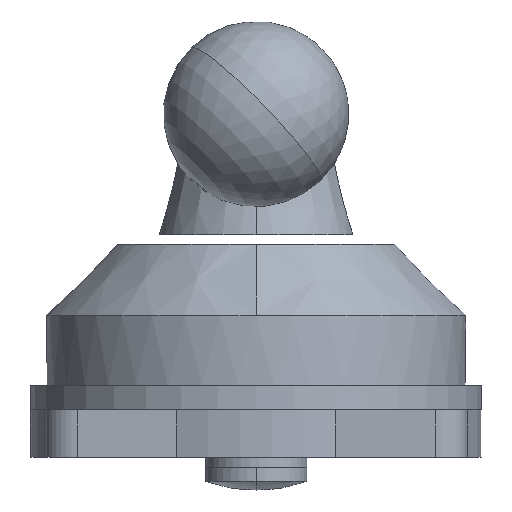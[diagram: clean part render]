
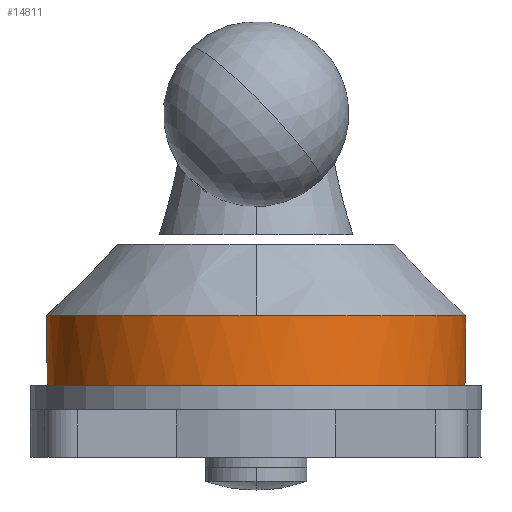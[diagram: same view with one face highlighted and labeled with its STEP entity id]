
A CAD part, front view. The second image highlights one B-rep face of the part: STEP entity #14811.
In plain terms, the highlighted cylindrical face has radius 41.25 mm (diameter 82.499 mm), a partial arc.
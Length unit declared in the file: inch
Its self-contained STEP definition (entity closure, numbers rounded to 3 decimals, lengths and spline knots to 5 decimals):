
#281 = CARTESIAN_POINT ( 'NONE',  ( 0.34484, 1.587, 0.70714 ) ) ;
#324 = ORIENTED_EDGE ( 'NONE', *, *, #4533, .T. ) ;
#381 = CARTESIAN_POINT ( 'NONE',  ( 0., -1.624, 0.75 ) ) ;
#505 = VERTEX_POINT ( 'NONE', #11172 ) ;
#512 = EDGE_CURVE ( 'NONE', #15346, #14352, #13918, .T. ) ;
#668 = ORIENTED_EDGE ( 'NONE', *, *, #15362, .T. ) ;
#938 = AXIS2_PLACEMENT_3D ( 'NONE', #8455, #8438, #8393 ) ;
#962 = CARTESIAN_POINT ( 'NONE',  ( -0.43676, 1.56417, 0.46685 ) ) ;
#1140 = DIRECTION ( 'NONE',  ( 0., 0., 1. ) ) ;
#1306 = CIRCLE ( 'NONE', #938, 1.624 ) ;
#1531 = CARTESIAN_POINT ( 'NONE',  ( 0.4375, 1.56396, 0.4375 ) ) ;
#1590 = CARTESIAN_POINT ( 'NONE',  ( 0.31645, 1.5929, 0.73994 ) ) ;
#1982 = CARTESIAN_POINT ( 'NONE',  ( 0., 0., 0.75 ) ) ;
#2180 = CARTESIAN_POINT ( 'NONE',  ( -0.30619, 1.59487, 0.75 ) ) ;
#2234 = CARTESIAN_POINT ( 'NONE',  ( -0.4375, 1.56396, 0.4375 ) ) ;
#2573 = CARTESIAN_POINT ( 'NONE',  ( -0.4375, 1.56396, 0.4375 ) ) ;
#2588 = VERTEX_POINT ( 'NONE', #5667 ) ;
#2917 = CIRCLE ( 'NONE', #9747, 1.624 ) ;
#3163 = B_SPLINE_CURVE_WITH_KNOTS ( 'NONE', 3,
 ( #1531, #8896, #11345, #4044, #12513, #5274, #13710, #6472, #14874, #7698, #281, #8944, #1590, #10167 ),
 .UNSPECIFIED., .F., .F.,
 ( 4, 2, 2, 2, 2, 2, 4 ),
 ( 0., 0.00221, 0.00331, 0.00442, 0.00663, 0.00773, 0.00884 ),
 .UNSPECIFIED. ) ;
#3214 = DIRECTION ( 'NONE',  ( 0., 1., 0. ) ) ;
#3416 = CARTESIAN_POINT ( 'NONE',  ( -0.34534, 1.58694, 0.70764 ) ) ;
#3653 = ORIENTED_EDGE ( 'NONE', *, *, #13631, .T. ) ;
#4044 = CARTESIAN_POINT ( 'NONE',  ( 0.42595, 1.56715, 0.53842 ) ) ;
#4284 = CARTESIAN_POINT ( 'NONE',  ( -0.4375, 1.56396, 0. ) ) ;
#4393 = ORIENTED_EDGE ( 'NONE', *, *, #9732, .T. ) ;
#4407 = VERTEX_POINT ( 'NONE', #381 ) ;
#4533 = EDGE_CURVE ( 'NONE', #505, #4407, #1306, .T. ) ;
#4561 = CARTESIAN_POINT ( 'NONE',  ( -0.4375, 1.56396, 0.203 ) ) ;
#4685 = CARTESIAN_POINT ( 'NONE',  ( -0.37719, 1.57961, 0.65963 ) ) ;
#4798 = CARTESIAN_POINT ( 'NONE',  ( 0.4375, 1.56396, 0.203 ) ) ;
#5274 = CARTESIAN_POINT ( 'NONE',  ( 0.41377, 1.57041, 0.58038 ) ) ;
#5337 = ORIENTED_EDGE ( 'NONE', *, *, #512, .F. ) ;
#5667 = CARTESIAN_POINT ( 'NONE',  ( -0.30619, 1.59487, 0.75 ) ) ;
#5730 = CYLINDRICAL_SURFACE ( 'NONE', #15549, 1.624 ) ;
#5811 = B_SPLINE_CURVE_WITH_KNOTS ( 'NONE', 3,
 ( #2180, #5829, #3416, #11950, #4685, #13118, #5889, #14307, #7092, #15469, #8338, #962, #9568, #2234 ),
 .UNSPECIFIED., .F., .F.,
 ( 4, 2, 2, 2, 2, 2, 4 ),
 ( 0.02606, 0.02827, 0.02937, 0.03048, 0.03268, 0.03379, 0.03489 ),
 .UNSPECIFIED. ) ;
#5829 = CARTESIAN_POINT ( 'NONE',  ( -0.32691, 1.5909, 0.72969 ) ) ;
#5889 = CARTESIAN_POINT ( 'NONE',  ( -0.39746, 1.57462, 0.62091 ) ) ;
#6142 = EDGE_CURVE ( 'NONE', #15542, #14352, #12050, .T. ) ;
#6183 = AXIS2_PLACEMENT_3D ( 'NONE', #11732, #11757, #11777 ) ;
#6472 = CARTESIAN_POINT ( 'NONE',  ( 0.39183, 1.57606, 0.63427 ) ) ;
#6560 = ORIENTED_EDGE ( 'NONE', *, *, #9411, .T. ) ;
#6938 = DIRECTION ( 'NONE',  ( 0., 1., 0. ) ) ;
#7092 = CARTESIAN_POINT ( 'NONE',  ( -0.42288, 1.56799, 0.55336 ) ) ;
#7509 = LINE ( 'NONE', #8504, #15001 ) ;
#7698 = CARTESIAN_POINT ( 'NONE',  ( 0.35365, 1.58505, 0.69546 ) ) ;
#7869 = VERTEX_POINT ( 'NONE', #14315 ) ;
#8338 = CARTESIAN_POINT ( 'NONE',  ( -0.43381, 1.56499, 0.49604 ) ) ;
#8393 = DIRECTION ( 'NONE',  ( 0., 1., 0. ) ) ;
#8438 = DIRECTION ( 'NONE',  ( 0., 0., -1. ) ) ;
#8455 = CARTESIAN_POINT ( 'NONE',  ( 0., 0., 0.75 ) ) ;
#8504 = CARTESIAN_POINT ( 'NONE',  ( 0.4375, 1.56396, 0. ) ) ;
#8656 = EDGE_LOOP ( 'NONE', ( #14936, #5337, #668, #3653, #324, #4393, #6560 ) ) ;
#8896 = CARTESIAN_POINT ( 'NONE',  ( 0.4375, 1.56396, 0.46692 ) ) ;
#8944 = CARTESIAN_POINT ( 'NONE',  ( 0.32624, 1.59092, 0.72936 ) ) ;
#9411 = EDGE_CURVE ( 'NONE', #2588, #15542, #5811, .T. ) ;
#9568 = CARTESIAN_POINT ( 'NONE',  ( -0.4375, 1.56396, 0.4522 ) ) ;
#9732 = EDGE_CURVE ( 'NONE', #4407, #2588, #2917, .T. ) ;
#9747 = AXIS2_PLACEMENT_3D ( 'NONE', #1982, #10544, #3214 ) ;
#10167 = CARTESIAN_POINT ( 'NONE',  ( 0.30619, 1.59487, 0.75 ) ) ;
#10296 = DIRECTION ( 'NONE',  ( 0., 0., -1. ) ) ;
#10503 = FACE_OUTER_BOUND ( 'NONE', #8656, .T. ) ;
#10544 = DIRECTION ( 'NONE',  ( 0., 0., -1. ) ) ;
#11172 = CARTESIAN_POINT ( 'NONE',  ( 0.30619, 1.59487, 0.75 ) ) ;
#11345 = CARTESIAN_POINT ( 'NONE',  ( 0.43456, 1.56479, 0.49582 ) ) ;
#11681 = VECTOR ( 'NONE', #10296, 39.37008 ) ;
#11732 = CARTESIAN_POINT ( 'NONE',  ( 0., 0., 0.203 ) ) ;
#11757 = DIRECTION ( 'NONE',  ( 0., 0., -1. ) ) ;
#11766 = DIRECTION ( 'NONE',  ( 0., 0., -1. ) ) ;
#11777 = DIRECTION ( 'NONE',  ( 0., 1., 0. ) ) ;
#11950 = CARTESIAN_POINT ( 'NONE',  ( -0.36965, 1.58139, 0.67196 ) ) ;
#12050 = LINE ( 'NONE', #4284, #11681 ) ;
#12513 = CARTESIAN_POINT ( 'NONE',  ( 0.42237, 1.56812, 0.55249 ) ) ;
#13118 = CARTESIAN_POINT ( 'NONE',  ( -0.39113, 1.57621, 0.63407 ) ) ;
#13631 = EDGE_CURVE ( 'NONE', #7869, #505, #3163, .T. ) ;
#13710 = CARTESIAN_POINT ( 'NONE',  ( 0.40874, 1.57173, 0.59418 ) ) ;
#13918 = CIRCLE ( 'NONE', #6183, 1.624 ) ;
#14307 = CARTESIAN_POINT ( 'NONE',  ( -0.41433, 1.5703, 0.58093 ) ) ;
#14315 = CARTESIAN_POINT ( 'NONE',  ( 0.4375, 1.56396, 0.4375 ) ) ;
#14352 = VERTEX_POINT ( 'NONE', #4561 ) ;
#14811 = ADVANCED_FACE ( 'NONE', ( #10503 ), #5730, .T. ) ;
#14874 = CARTESIAN_POINT ( 'NONE',  ( 0.37806, 1.57947, 0.65958 ) ) ;
#14936 = ORIENTED_EDGE ( 'NONE', *, *, #6142, .T. ) ;
#15001 = VECTOR ( 'NONE', #1140, 39.37008 ) ;
#15277 = CARTESIAN_POINT ( 'NONE',  ( 0., 0., 0. ) ) ;
#15346 = VERTEX_POINT ( 'NONE', #4798 ) ;
#15362 = EDGE_CURVE ( 'NONE', #15346, #7869, #7509, .T. ) ;
#15469 = CARTESIAN_POINT ( 'NONE',  ( -0.4316, 1.5656, 0.51059 ) ) ;
#15542 = VERTEX_POINT ( 'NONE', #2573 ) ;
#15549 = AXIS2_PLACEMENT_3D ( 'NONE', #15277, #11766, #6938 ) ;
